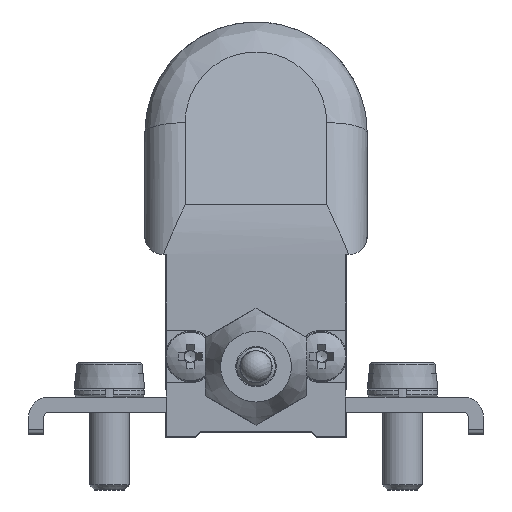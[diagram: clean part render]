
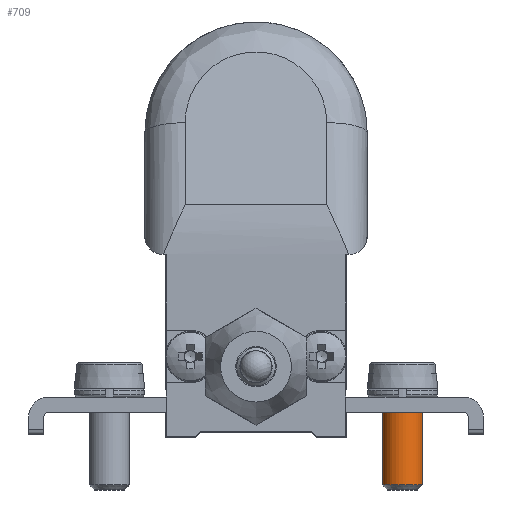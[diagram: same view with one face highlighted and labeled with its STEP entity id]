
A CAD part, front view. The second image highlights one B-rep face of the part: STEP entity #709.
In plain terms, the highlighted cylindrical face has radius 2 mm (diameter 4 mm), a full revolution.
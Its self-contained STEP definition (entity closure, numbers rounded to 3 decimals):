
#709 = ADVANCED_FACE( '', ( #1821, #1822 ), #1823, .T. );
#1821 = FACE_OUTER_BOUND( '', #3562, .T. );
#1822 = FACE_OUTER_BOUND( '', #3563, .T. );
#1823 = CYLINDRICAL_SURFACE( '', #3564, 2. );
#3562 = EDGE_LOOP( '', ( #8552 ) );
#3563 = EDGE_LOOP( '', ( #8553 ) );
#3564 = AXIS2_PLACEMENT_3D( '', #8554, #8555, #8556 );
#8552 = ORIENTED_EDGE( '', *, *, #12280, .T. );
#8553 = ORIENTED_EDGE( '', *, *, #12281, .T. );
#8554 = CARTESIAN_POINT( '', ( 14.5, 11., 32.8 ) );
#8555 = DIRECTION( '', ( 0., 0., -1. ) );
#8556 = DIRECTION( '', ( 1., 0., 0. ) );
#12280 = EDGE_CURVE( '', #14633, #14633, #14634, .F. );
#12281 = EDGE_CURVE( '', #14635, #14635, #14636, .T. );
#14633 = VERTEX_POINT( '', #18908 );
#14634 = CIRCLE( '', #18909, 2. );
#14635 = VERTEX_POINT( '', #18910 );
#14636 = CIRCLE( '', #18911, 2. );
#18908 = CARTESIAN_POINT( '', ( 12.5, 11., -4.7 ) );
#18909 = AXIS2_PLACEMENT_3D( '', #26664, #26665, #26666 );
#18910 = CARTESIAN_POINT( '', ( 16.5, 11., 3.8 ) );
#18911 = AXIS2_PLACEMENT_3D( '', #26667, #26668, #26669 );
#26664 = CARTESIAN_POINT( '', ( 14.5, 11., -4.7 ) );
#26665 = DIRECTION( '', ( 0., 0., -1. ) );
#26666 = DIRECTION( '', ( -1., 0., 0. ) );
#26667 = CARTESIAN_POINT( '', ( 14.5, 11., 3.8 ) );
#26668 = DIRECTION( '', ( 0., 0., -1. ) );
#26669 = DIRECTION( '', ( 1., 0., 0. ) );
